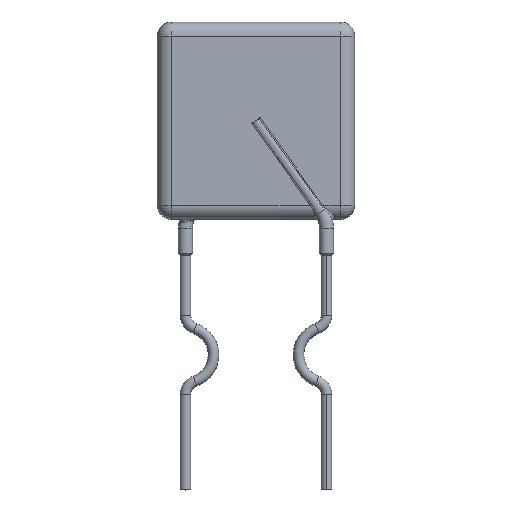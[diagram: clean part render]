
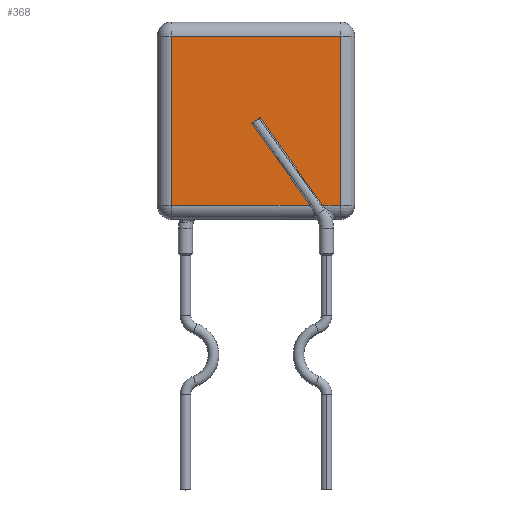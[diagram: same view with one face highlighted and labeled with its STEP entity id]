
A CAD part, top view. The second image highlights one B-rep face of the part: STEP entity #368.
In plain terms, the highlighted planar face has unit normal (0, 0, 1).
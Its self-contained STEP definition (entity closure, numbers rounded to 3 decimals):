
#2 = CARTESIAN_POINT ( 'NONE',  ( 1.104, -0.926, 2. ) ) ;
#58 = LINE ( 'NONE', #1524, #2333 ) ;
#82 = VECTOR ( 'NONE', #1504, 1000. ) ;
#176 = VECTOR ( 'NONE', #983, 1000. ) ;
#206 = VERTEX_POINT ( 'NONE', #2656 ) ;
#231 = CARTESIAN_POINT ( 'NONE',  ( -6., -6., 2. ) ) ;
#315 = VECTOR ( 'NONE', #1622, 1000. ) ;
#331 = CARTESIAN_POINT ( 'NONE',  ( -6., 6., 2. ) ) ;
#368 = ADVANCED_FACE ( 'NONE', ( #2407 ), #569, .T. ) ;
#560 = EDGE_CURVE ( 'NONE', #2229, #1464, #58, .T. ) ;
#569 = PLANE ( 'NONE',  #1788 ) ;
#621 = ORIENTED_EDGE ( 'NONE', *, *, #1247, .T. ) ;
#769 = LINE ( 'NONE', #1155, #176 ) ;
#850 = VERTEX_POINT ( 'NONE', #2429 ) ;
#914 = DIRECTION ( 'NONE',  ( 0., -1., 0. ) ) ;
#943 = CARTESIAN_POINT ( 'NONE',  ( 6., 6., 2. ) ) ;
#973 = LINE ( 'NONE', #1794, #315 ) ;
#983 = DIRECTION ( 'NONE',  ( 1., 0., 0. ) ) ;
#994 = EDGE_CURVE ( 'NONE', #1597, #1104, #769, .T. ) ;
#1006 = CARTESIAN_POINT ( 'NONE',  ( -6., -6., 2. ) ) ;
#1081 = ORIENTED_EDGE ( 'NONE', *, *, #994, .T. ) ;
#1104 = VERTEX_POINT ( 'NONE', #2099 ) ;
#1155 = CARTESIAN_POINT ( 'NONE',  ( 6., -6., 2. ) ) ;
#1185 = ORIENTED_EDGE ( 'NONE', *, *, #1745, .T. ) ;
#1247 = EDGE_CURVE ( 'NONE', #1104, #2494, #2572, .T. ) ;
#1258 = ORIENTED_EDGE ( 'NONE', *, *, #2275, .T. ) ;
#1267 = VECTOR ( 'NONE', #2337, 1000. ) ;
#1318 = CARTESIAN_POINT ( 'NONE',  ( -6.811, -4.865, 2. ) ) ;
#1337 = LINE ( 'NONE', #331, #1518 ) ;
#1411 = EDGE_CURVE ( 'NONE', #850, #206, #973, .T. ) ;
#1441 = VECTOR ( 'NONE', #1717, 1000. ) ;
#1464 = VERTEX_POINT ( 'NONE', #231 ) ;
#1504 = DIRECTION ( 'NONE',  ( 0., 1., 0. ) ) ;
#1518 = VECTOR ( 'NONE', #2176, 1000. ) ;
#1524 = CARTESIAN_POINT ( 'NONE',  ( -6., -6., 2. ) ) ;
#1597 = VERTEX_POINT ( 'NONE', #2301 ) ;
#1622 = DIRECTION ( 'NONE',  ( -0.581, 0.814, 0. ) ) ;
#1631 = LINE ( 'NONE', #1833, #2532 ) ;
#1674 = ORIENTED_EDGE ( 'NONE', *, *, #2058, .F. ) ;
#1717 = DIRECTION ( 'NONE',  ( 0.581, -0.814, 0. ) ) ;
#1745 = EDGE_CURVE ( 'NONE', #1464, #850, #1631, .T. ) ;
#1785 = DIRECTION ( 'NONE',  ( 1., 0., 0. ) ) ;
#1788 = AXIS2_PLACEMENT_3D ( 'NONE', #1006, #2224, #2625 ) ;
#1794 = CARTESIAN_POINT ( 'NONE',  ( 0.517, -1.345, 2. ) ) ;
#1803 = ORIENTED_EDGE ( 'NONE', *, *, #2186, .T. ) ;
#1833 = CARTESIAN_POINT ( 'NONE',  ( 6., -6., 2. ) ) ;
#1859 = LINE ( 'NONE', #2, #1441 ) ;
#1865 = VERTEX_POINT ( 'NONE', #2658 ) ;
#2058 = EDGE_CURVE ( 'NONE', #1865, #206, #2321, .T. ) ;
#2099 = CARTESIAN_POINT ( 'NONE',  ( 6., -6., 2. ) ) ;
#2176 = DIRECTION ( 'NONE',  ( -1., 0., 0. ) ) ;
#2186 = EDGE_CURVE ( 'NONE', #1865, #1597, #1859, .T. ) ;
#2224 = DIRECTION ( 'NONE',  ( 0., 0., 1. ) ) ;
#2229 = VERTEX_POINT ( 'NONE', #2546 ) ;
#2270 = ORIENTED_EDGE ( 'NONE', *, *, #560, .T. ) ;
#2275 = EDGE_CURVE ( 'NONE', #2494, #2229, #1337, .T. ) ;
#2301 = CARTESIAN_POINT ( 'NONE',  ( 4.729, -6., 2. ) ) ;
#2321 = LINE ( 'NONE', #1318, #1267 ) ;
#2333 = VECTOR ( 'NONE', #914, 1000. ) ;
#2337 = DIRECTION ( 'NONE',  ( -0.814, -0.581, 0. ) ) ;
#2363 = ORIENTED_EDGE ( 'NONE', *, *, #1411, .T. ) ;
#2388 = EDGE_LOOP ( 'NONE', ( #1185, #2363, #1674, #1803, #1081, #621, #1258, #2270 ) ) ;
#2407 = FACE_OUTER_BOUND ( 'NONE', #2388, .T. ) ;
#2429 = CARTESIAN_POINT ( 'NONE',  ( 3.843, -6., 2. ) ) ;
#2450 = CARTESIAN_POINT ( 'NONE',  ( 6., 6., 2. ) ) ;
#2494 = VERTEX_POINT ( 'NONE', #2450 ) ;
#2532 = VECTOR ( 'NONE', #1785, 1000. ) ;
#2546 = CARTESIAN_POINT ( 'NONE',  ( -6., 6., 2. ) ) ;
#2572 = LINE ( 'NONE', #943, #82 ) ;
#2625 = DIRECTION ( 'NONE',  ( 1., 0., 0. ) ) ;
#2656 = CARTESIAN_POINT ( 'NONE',  ( -0.293, -0.21, 2. ) ) ;
#2658 = CARTESIAN_POINT ( 'NONE',  ( 0.293, 0.21, 2. ) ) ;
